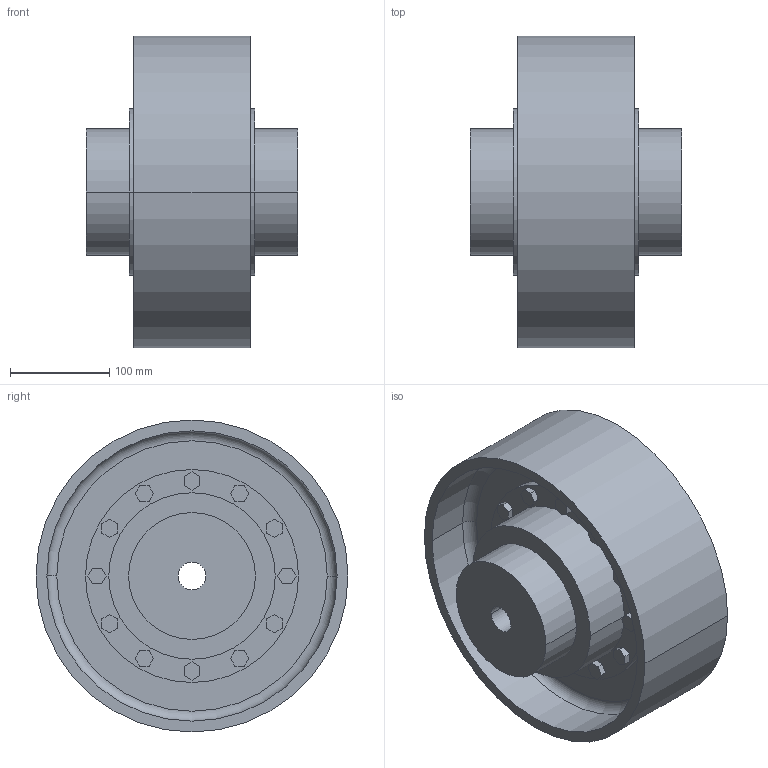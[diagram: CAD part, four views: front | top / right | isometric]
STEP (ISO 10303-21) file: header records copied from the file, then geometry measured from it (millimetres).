
FILE_DESCRIPTION((''),'2;1');
FILE_NAME('A19109200-0_ASM','2018-11-12T',('AB_Roschiwal'),('RENK AG'),'PRO/ENGINEER BY PARAMETRIC TECHNOLOGY CORPORATION, 2015440','PRO/ENGINEER BY PARAMETRIC TECHNOLOGY CORPORATION, 2015440','');
FILE_SCHEMA(('CONFIG_CONTROL_DESIGN'));
Length unit declared in the file: millimetre
Products named in the file (4): LBKD80_GEHAEUSE; LBKD80_NABE; LBKD80_BREMSSCHEIBE; A19109200-0_ASM
Assembly tree (4 placements, depth 2):
  A19109200-0_ASM
    LBKD80_GEHAEUSE
    LBKD80_NABE  x2
    LBKD80_BREMSSCHEIBE
Bounding box: 214 x 315 x 315 mm (x, y, z)
Volume: 5507389.5 mm3; surface area: 728215.7 mm2
Topology: 4 solids, 4 shells, 292 faces, 704 edges, 468 vertices
Faces by surface type: plane 200, cylinder 88, torus 4
Entity records: 8356 total; most frequent: DIRECTION 1424, CARTESIAN_POINT 1420, ORIENTED_EDGE 1360, EDGE_CURVE 680, VECTOR 512, LINE 512, AXIS2_PLACEMENT_3D 456, VERTEX_POINT 452
